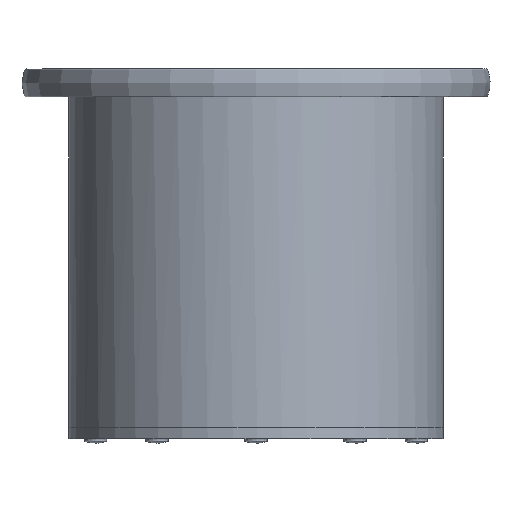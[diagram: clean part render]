
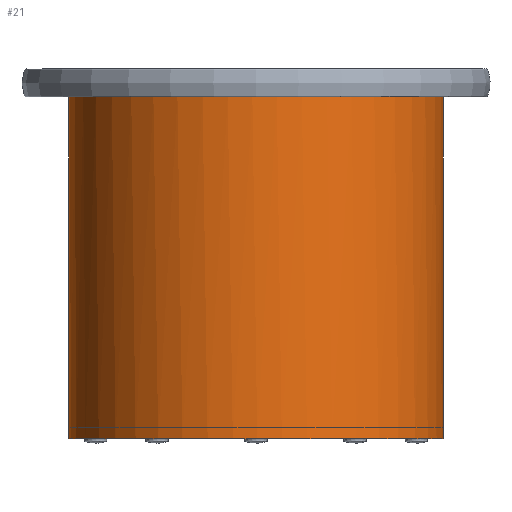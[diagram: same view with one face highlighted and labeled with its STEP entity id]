
A CAD part, front view. The second image highlights one B-rep face of the part: STEP entity #21.
In plain terms, the highlighted free-form (B-spline) face has degree [1, 2] with [2, 9] control points.
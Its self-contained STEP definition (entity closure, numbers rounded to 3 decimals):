
#21=ADVANCED_FACE('',(#31),#151,.T.);
#31=FACE_OUTER_BOUND('',#41,.T.);
#41=EDGE_LOOP('',(#59,#60,#61,#62));
#59=ORIENTED_EDGE('',*,*,#98,.T.);
#60=ORIENTED_EDGE('',*,*,#97,.F.);
#61=ORIENTED_EDGE('',*,*,#98,.F.);
#62=ORIENTED_EDGE('',*,*,#99,.F.);
#97=EDGE_CURVE('',#136,#136,#116,.T.);
#98=EDGE_CURVE('',#137,#136,#131,.T.);
#99=EDGE_CURVE('',#137,#137,#117,.T.);
#116=(
BOUNDED_CURVE()
B_SPLINE_CURVE(2,(#708,#709,#710,#711,#712,#713,#714,#715,#716),
 .UNSPECIFIED.,.T.,.F.)
B_SPLINE_CURVE_WITH_KNOTS((3,2,2,2,3),(-1256.637,-942.478,
-628.319,-314.159,0.),.UNSPECIFIED.)
CURVE()
GEOMETRIC_REPRESENTATION_ITEM()
RATIONAL_B_SPLINE_CURVE((1.,0.707,1.,0.707,1.,0.707,
1.,0.707,1.))
REPRESENTATION_ITEM('')
);
#117=(
BOUNDED_CURVE()
B_SPLINE_CURVE(2,(#719,#720,#721,#722,#723,#724,#725,#726,#727),
 .UNSPECIFIED.,.T.,.F.)
B_SPLINE_CURVE_WITH_KNOTS((3,2,2,2,3),(0.,314.159,628.319,
942.478,1256.637),.UNSPECIFIED.)
CURVE()
GEOMETRIC_REPRESENTATION_ITEM()
RATIONAL_B_SPLINE_CURVE((1.,0.707,1.,0.707,1.,0.707,
1.,0.707,1.))
REPRESENTATION_ITEM('')
);
#131=B_SPLINE_CURVE_WITH_KNOTS('',1,(#717,#718),.UNSPECIFIED.,.F.,.F.,(2,
2),(282.5,565.),.UNSPECIFIED.);
#136=VERTEX_POINT('',#674);
#137=VERTEX_POINT('',#675);
#151=(
BOUNDED_SURFACE()
B_SPLINE_SURFACE(1,2,((#204,#205,#206,#207,#208,#209,#210,#211,#212),(#213,
#214,#215,#216,#217,#218,#219,#220,#221)),.UNSPECIFIED.,.F.,.F.,.F.)
B_SPLINE_SURFACE_WITH_KNOTS((2,2),(3,2,2,2,3),(282.5,565.),
(0.,314.159,628.319,942.478,1256.637),
 .UNSPECIFIED.)
GEOMETRIC_REPRESENTATION_ITEM()
RATIONAL_B_SPLINE_SURFACE(((1.,0.707,1.,0.707,1.,
0.707,1.,0.707,1.),(1.,0.707,1.,0.707,
1.,0.707,1.,0.707,1.)))
REPRESENTATION_ITEM('')
SURFACE()
);
#204=CARTESIAN_POINT('',(200.,0.,369.973));
#205=CARTESIAN_POINT('',(200.,200.,369.973));
#206=CARTESIAN_POINT('',(0.,200.,369.973));
#207=CARTESIAN_POINT('',(-200.,200.,369.973));
#208=CARTESIAN_POINT('',(-200.,0.,369.973));
#209=CARTESIAN_POINT('',(-200.,-200.,369.973));
#210=CARTESIAN_POINT('',(0.,-200.,369.973));
#211=CARTESIAN_POINT('',(200.,-200.,369.973));
#212=CARTESIAN_POINT('',(200.,0.,369.973));
#213=CARTESIAN_POINT('',(200.,0.,4.973));
#214=CARTESIAN_POINT('',(200.,200.,4.973));
#215=CARTESIAN_POINT('',(0.,200.,4.973));
#216=CARTESIAN_POINT('',(-200.,200.,4.973));
#217=CARTESIAN_POINT('',(-200.,0.,4.973));
#218=CARTESIAN_POINT('',(-200.,-200.,4.973));
#219=CARTESIAN_POINT('',(0.,-200.,4.973));
#220=CARTESIAN_POINT('',(200.,-200.,4.973));
#221=CARTESIAN_POINT('',(200.,0.,4.973));
#674=CARTESIAN_POINT('',(200.,0.,4.973));
#675=CARTESIAN_POINT('',(200.,0.,369.973));
#708=CARTESIAN_POINT('',(200.,0.,4.973));
#709=CARTESIAN_POINT('',(200.,-200.,4.973));
#710=CARTESIAN_POINT('',(0.,-200.,4.973));
#711=CARTESIAN_POINT('',(-200.,-200.,4.973));
#712=CARTESIAN_POINT('',(-200.,0.,4.973));
#713=CARTESIAN_POINT('',(-200.,200.,4.973));
#714=CARTESIAN_POINT('',(0.,200.,4.973));
#715=CARTESIAN_POINT('',(200.,200.,4.973));
#716=CARTESIAN_POINT('',(200.,0.,4.973));
#717=CARTESIAN_POINT('',(200.,0.,369.973));
#718=CARTESIAN_POINT('',(200.,0.,4.973));
#719=CARTESIAN_POINT('',(200.,0.,369.973));
#720=CARTESIAN_POINT('',(200.,200.,369.973));
#721=CARTESIAN_POINT('',(0.,200.,369.973));
#722=CARTESIAN_POINT('',(-200.,200.,369.973));
#723=CARTESIAN_POINT('',(-200.,0.,369.973));
#724=CARTESIAN_POINT('',(-200.,-200.,369.973));
#725=CARTESIAN_POINT('',(0.,-200.,369.973));
#726=CARTESIAN_POINT('',(200.,-200.,369.973));
#727=CARTESIAN_POINT('',(200.,0.,369.973));
